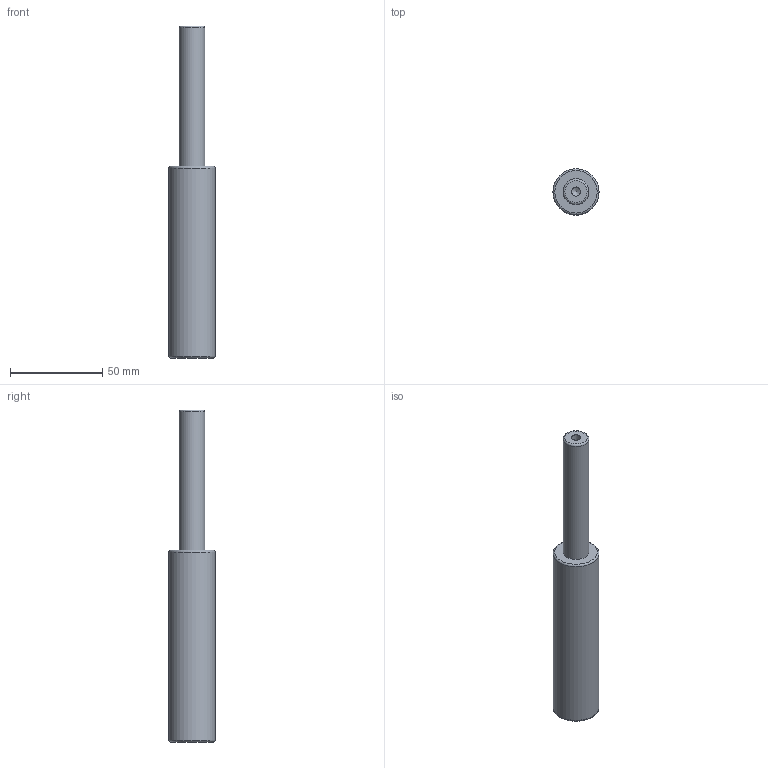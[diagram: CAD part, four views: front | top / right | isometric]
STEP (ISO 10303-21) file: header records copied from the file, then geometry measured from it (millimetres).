
FILE_DESCRIPTION(/* description */ (''),/* implementation_level */ '2;1');
FILE_NAME(/* name */ 'NV5-SMLX.25x75.stp',/* time_stamp */ '2018-08-31T16:08:37+02:00',/* author */ (''),/* organization */ (''),/* preprocessor_version */ 'ST-DEVELOPER v16',/* originating_system */ 'SIEMENS PLM Software NX 10.0',/* authorisation */ '');
FILE_SCHEMA (('AUTOMOTIVE_DESIGN { 1 0 10303 214 3 1 1 1 }'));
Length unit declared in the file: millimetre
Products named in the file (1): NV5-SMLX.25x75
Bounding box: 25 x 25 x 180 mm (x, y, z)
Volume: 62256.3 mm3; surface area: 12757 mm2
Topology: 1 solids, 1 shells, 12 faces, 24 edges, 15 vertices
Faces by surface type: cylinder 4, torus 3, plane 3, cone 2
Full cylindrical faces by diameter (mm): 5 x2, 14 x1, 25 x1
Entity records: 266 total; most frequent: DIRECTION 48, CARTESIAN_POINT 37, FACE_BOUND 24, AXIS2_PLACEMENT_3D 24, EDGE_LOOP 22, ORIENTED_EDGE 22, VERTEX_POINT 13, ADVANCED_FACE 12
